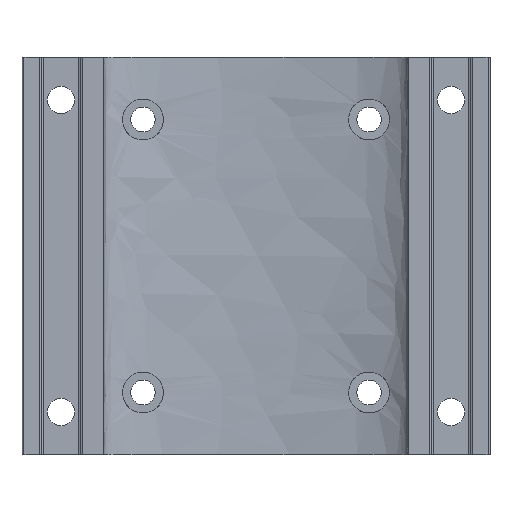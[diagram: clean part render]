
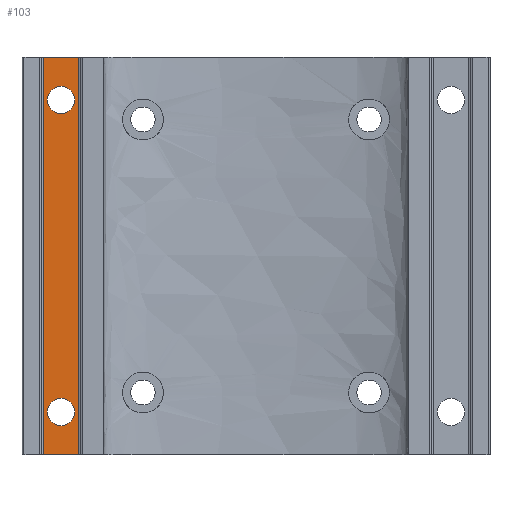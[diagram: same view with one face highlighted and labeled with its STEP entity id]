
A CAD part, front view. The second image highlights one B-rep face of the part: STEP entity #103.
In plain terms, the highlighted planar face has unit normal (0, -1, 0).
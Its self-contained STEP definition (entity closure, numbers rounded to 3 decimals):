
#6 = EDGE_CURVE ( 'NONE', #553, #1919, #245, .T. ) ;
#18 = CARTESIAN_POINT ( 'NONE',  ( -50., -11.5, -91. ) ) ;
#54 = DIRECTION ( 'NONE',  ( -1., 0., 0. ) ) ;
#91 = EDGE_CURVE ( 'NONE', #2261, #646, #433, .T. ) ;
#103 = ADVANCED_FACE ( 'NONE', ( #818, #1397, #1826 ), #944, .F. ) ;
#137 = CARTESIAN_POINT ( 'NONE',  ( -45.5, -11.5, 0. ) ) ;
#163 = VERTEX_POINT ( 'NONE', #1274 ) ;
#180 = VECTOR ( 'NONE', #1319, 1000. ) ;
#206 = ORIENTED_EDGE ( 'NONE', *, *, #851, .F. ) ;
#245 = LINE ( 'NONE', #1392, #180 ) ;
#361 = CARTESIAN_POINT ( 'NONE',  ( -54.5, -11.5, 0. ) ) ;
#401 = ORIENTED_EDGE ( 'NONE', *, *, #1198, .T. ) ;
#433 = LINE ( 'NONE', #1459, #873 ) ;
#438 = DIRECTION ( 'NONE',  ( 0., 0., 1. ) ) ;
#448 = DIRECTION ( 'NONE',  ( 0., 1., 0. ) ) ;
#453 = CARTESIAN_POINT ( 'NONE',  ( -50., -11.5, -91. ) ) ;
#457 = CARTESIAN_POINT ( 'NONE',  ( -45.5, -11.5, -102. ) ) ;
#522 = EDGE_LOOP ( 'NONE', ( #206, #969, #401, #2366 ) ) ;
#535 = EDGE_CURVE ( 'NONE', #694, #163, #1939, .T. ) ;
#553 = VERTEX_POINT ( 'NONE', #361 ) ;
#646 = VERTEX_POINT ( 'NONE', #137 ) ;
#694 = VERTEX_POINT ( 'NONE', #1517 ) ;
#759 = DIRECTION ( 'NONE',  ( 0., 0., 1. ) ) ;
#779 = AXIS2_PLACEMENT_3D ( 'NONE', #2120, #2129, #2112 ) ;
#805 = CARTESIAN_POINT ( 'NONE',  ( -55., -11.5, 0. ) ) ;
#818 = FACE_BOUND ( 'NONE', #1582, .T. ) ;
#826 = DIRECTION ( 'NONE',  ( 0., 0., 1. ) ) ;
#842 = DIRECTION ( 'NONE',  ( 0., 1., 0. ) ) ;
#845 = DIRECTION ( 'NONE',  ( 0., 1., 0. ) ) ;
#851 = EDGE_CURVE ( 'NONE', #2261, #1919, #1802, .T. ) ;
#873 = VECTOR ( 'NONE', #1025, 1000. ) ;
#928 = ORIENTED_EDGE ( 'NONE', *, *, #1512, .T. ) ;
#939 = CARTESIAN_POINT ( 'NONE',  ( -50., -11.5, -11. ) ) ;
#944 = PLANE ( 'NONE',  #1892 ) ;
#968 = EDGE_LOOP ( 'NONE', ( #1528, #2342 ) ) ;
#969 = ORIENTED_EDGE ( 'NONE', *, *, #91, .T. ) ;
#1025 = DIRECTION ( 'NONE',  ( 0., 0., 1. ) ) ;
#1101 = CIRCLE ( 'NONE', #2138, 3.5 ) ;
#1165 = CARTESIAN_POINT ( 'NONE',  ( -54.5, -11.5, -102. ) ) ;
#1198 = EDGE_CURVE ( 'NONE', #646, #553, #2197, .T. ) ;
#1210 = VECTOR ( 'NONE', #2123, 1000. ) ;
#1259 = CIRCLE ( 'NONE', #1482, 3.5 ) ;
#1274 = CARTESIAN_POINT ( 'NONE',  ( -53.5, -11.5, -91. ) ) ;
#1296 = VECTOR ( 'NONE', #54, 1000. ) ;
#1319 = DIRECTION ( 'NONE',  ( 0., 0., -1. ) ) ;
#1392 = CARTESIAN_POINT ( 'NONE',  ( -54.5, -11.5, -102. ) ) ;
#1397 = FACE_BOUND ( 'NONE', #968, .T. ) ;
#1459 = CARTESIAN_POINT ( 'NONE',  ( -45.5, -11.5, 0. ) ) ;
#1482 = AXIS2_PLACEMENT_3D ( 'NONE', #18, #1646, #759 ) ;
#1509 = CARTESIAN_POINT ( 'NONE',  ( -55., -11.5, -102. ) ) ;
#1512 = EDGE_CURVE ( 'NONE', #2024, #2219, #1101, .T. ) ;
#1517 = CARTESIAN_POINT ( 'NONE',  ( -46.5, -11.5, -91. ) ) ;
#1528 = ORIENTED_EDGE ( 'NONE', *, *, #1738, .T. ) ;
#1582 = EDGE_LOOP ( 'NONE', ( #2155, #928 ) ) ;
#1646 = DIRECTION ( 'NONE',  ( 0., 1., 0. ) ) ;
#1701 = CIRCLE ( 'NONE', #779, 3.5 ) ;
#1738 = EDGE_CURVE ( 'NONE', #163, #694, #1259, .T. ) ;
#1802 = LINE ( 'NONE', #2103, #1296 ) ;
#1826 = FACE_OUTER_BOUND ( 'NONE', #522, .T. ) ;
#1840 = DIRECTION ( 'NONE',  ( 0., 0., 1. ) ) ;
#1892 = AXIS2_PLACEMENT_3D ( 'NONE', #1509, #842, #826 ) ;
#1919 = VERTEX_POINT ( 'NONE', #1165 ) ;
#1939 = CIRCLE ( 'NONE', #2334, 3.5 ) ;
#2024 = VERTEX_POINT ( 'NONE', #2108 ) ;
#2103 = CARTESIAN_POINT ( 'NONE',  ( -55., -11.5, -102. ) ) ;
#2108 = CARTESIAN_POINT ( 'NONE',  ( -46.5, -11.5, -11. ) ) ;
#2112 = DIRECTION ( 'NONE',  ( 0., 0., 1. ) ) ;
#2120 = CARTESIAN_POINT ( 'NONE',  ( -50., -11.5, -11. ) ) ;
#2123 = DIRECTION ( 'NONE',  ( -1., 0., 0. ) ) ;
#2129 = DIRECTION ( 'NONE',  ( 0., 1., 0. ) ) ;
#2138 = AXIS2_PLACEMENT_3D ( 'NONE', #939, #845, #1840 ) ;
#2140 = EDGE_CURVE ( 'NONE', #2219, #2024, #1701, .T. ) ;
#2155 = ORIENTED_EDGE ( 'NONE', *, *, #2140, .T. ) ;
#2197 = LINE ( 'NONE', #805, #1210 ) ;
#2219 = VERTEX_POINT ( 'NONE', #2315 ) ;
#2261 = VERTEX_POINT ( 'NONE', #457 ) ;
#2315 = CARTESIAN_POINT ( 'NONE',  ( -53.5, -11.5, -11. ) ) ;
#2334 = AXIS2_PLACEMENT_3D ( 'NONE', #453, #448, #438 ) ;
#2342 = ORIENTED_EDGE ( 'NONE', *, *, #535, .T. ) ;
#2366 = ORIENTED_EDGE ( 'NONE', *, *, #6, .T. ) ;
